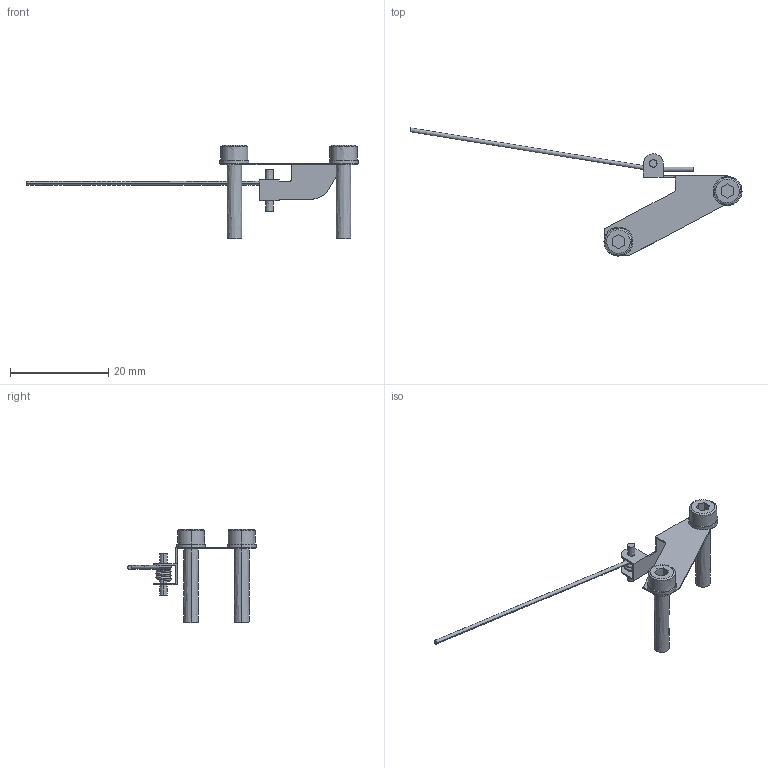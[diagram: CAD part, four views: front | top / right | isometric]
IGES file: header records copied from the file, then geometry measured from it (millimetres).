
Start section:  PTC IGES file: 210414_vav-5.igs
Global section: file name: 210414_vav-5.igs; native system: Pro/ENGINEER by Parametric Technology Corporation; preprocessor: 2004090; author: KAIHATSU01; organization: Unknown; date: 061017.094758; units: millimetre
Bounding box: 67.58 x 26.11 x 19 mm (x, y, z)
Volume: 515.6 mm3; surface area: 1421 mm2
Topology: 1 solids, 3 shells, 95 faces, 231 edges, 151 vertices
Faces by surface type: bspline 95
